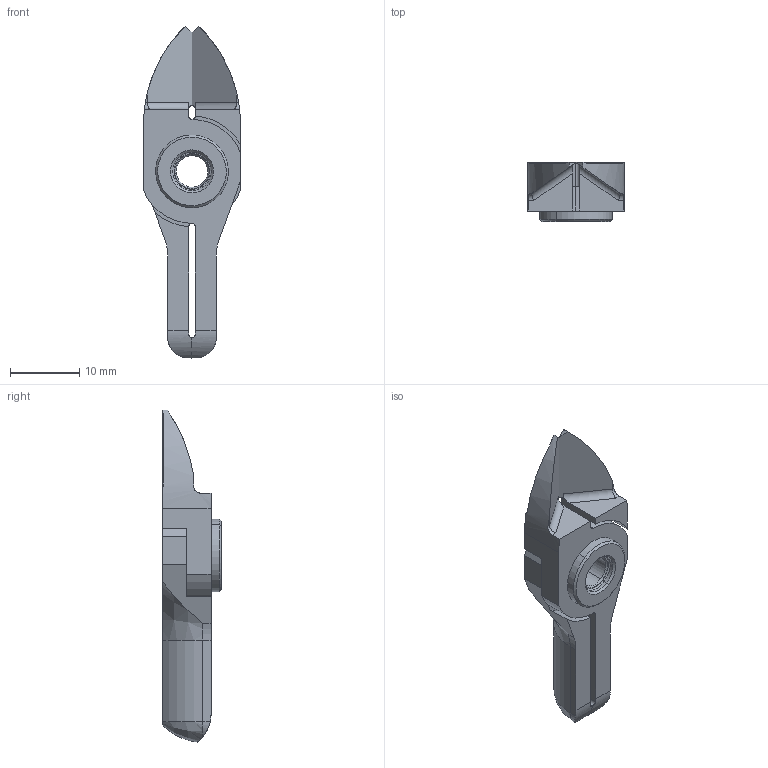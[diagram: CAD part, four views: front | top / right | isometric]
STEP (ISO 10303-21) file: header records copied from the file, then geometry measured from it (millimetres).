
FILE_DESCRIPTION (( 'STEP AP214' ), '1' );
FILE_NAME ('NY03RAJ.STEP', '2019-11-28T02:41:24', ( '微软用户' ), ( '微软中国' ), 'SwSTEP 2.0', 'SolidWorks 2016', '' );
FILE_SCHEMA (( 'AUTOMOTIVE_DESIGN' ));
Length unit declared in the file: millimetre
Products named in the file (3): b; a; NY03RAJ
Assembly tree (2 placements, depth 2):
  NY03RAJ
    a
    b
Bounding box: 14 x 8.5 x 47.96 mm (x, y, z)
Volume: 2247.5 mm3; surface area: 2789.3 mm2
Topology: 3 solids, 3 shells, 125 faces, 324 edges, 206 vertices
Faces by surface type: cylinder 52, plane 41, cone 24, bspline 8
Entity records: 4396 total; most frequent: CARTESIAN_POINT 1222, DIRECTION 665, ORIENTED_EDGE 640, EDGE_CURVE 320, AXIS2_PLACEMENT_3D 254, VERTEX_POINT 206, VECTOR 157, LINE 157
